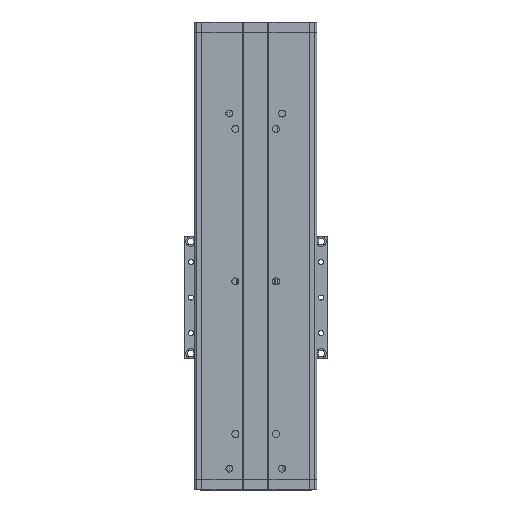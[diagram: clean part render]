
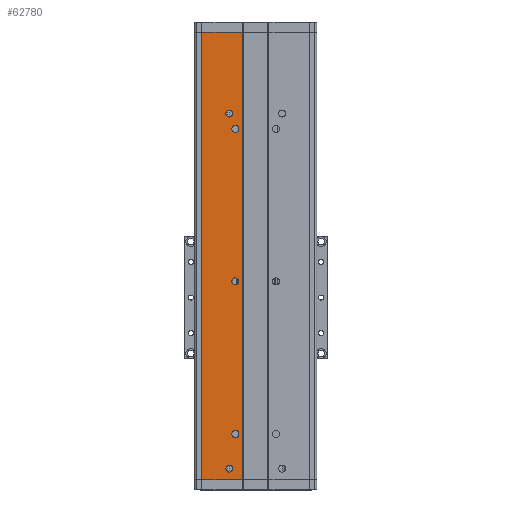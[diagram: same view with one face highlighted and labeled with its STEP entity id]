
A CAD part, front view. The second image highlights one B-rep face of the part: STEP entity #62780.
In plain terms, the highlighted planar face has unit normal (0, -1, 0).
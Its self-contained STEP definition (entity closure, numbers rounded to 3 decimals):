
#586 = LINE ( 'NONE', #114960, #53564 ) ;
#2194 = VERTEX_POINT ( 'NONE', #94603 ) ;
#2422 = CARTESIAN_POINT ( 'NONE',  ( -7.69, -28.09, 41.5 ) ) ;
#2579 = CARTESIAN_POINT ( 'NONE',  ( -13.69, -28.09, 7.6 ) ) ;
#2990 = DIRECTION ( 'NONE',  ( 0., -1., 0. ) ) ;
#4517 = FACE_BOUND ( 'NONE', #91192, .T. ) ;
#4827 = EDGE_CURVE ( 'NONE', #81502, #5033, #51527, .T. ) ;
#5033 = VERTEX_POINT ( 'NONE', #2579 ) ;
#5763 = EDGE_CURVE ( 'NONE', #108487, #126598, #79387, .T. ) ;
#5899 = CARTESIAN_POINT ( 'NONE',  ( -13.69, -28.09, 360. ) ) ;
#5983 = EDGE_CURVE ( 'NONE', #123065, #109229, #10793, .T. ) ;
#6217 = CARTESIAN_POINT ( 'NONE',  ( -7.69, -28.09, 345. ) ) ;
#6639 = EDGE_CURVE ( 'NONE', #2194, #117827, #40280, .T. ) ;
#9002 = ORIENTED_EDGE ( 'NONE', *, *, #5763, .F. ) ;
#9093 = ORIENTED_EDGE ( 'NONE', *, *, #44236, .T. ) ;
#9128 = DIRECTION ( 'NONE',  ( 0., -1., 0. ) ) ;
#9725 = ORIENTED_EDGE ( 'NONE', *, *, #5983, .T. ) ;
#10226 = CARTESIAN_POINT ( 'NONE',  ( -7.69, -28.09, 45. ) ) ;
#10750 = FACE_BOUND ( 'NONE', #50779, .T. ) ;
#10793 = CIRCLE ( 'NONE', #37494, 3.5 ) ;
#11366 = CIRCLE ( 'NONE', #45478, 3.5 ) ;
#15848 = CIRCLE ( 'NONE', #83553, 3.5 ) ;
#15907 = DIRECTION ( 'NONE',  ( 0., 0., 1. ) ) ;
#16208 = DIRECTION ( 'NONE',  ( 0., 0., 1. ) ) ;
#17173 = CARTESIAN_POINT ( 'NONE',  ( -13.69, -28.09, 11. ) ) ;
#18568 = EDGE_CURVE ( 'NONE', #5033, #81502, #105408, .T. ) ;
#18867 = CARTESIAN_POINT ( 'NONE',  ( -7.69, -28.09, 48.5 ) ) ;
#19024 = CIRCLE ( 'NONE', #62303, 3.5 ) ;
#19835 = CARTESIAN_POINT ( 'NONE',  ( -40.69, -28.09, 440. ) ) ;
#20261 = DIRECTION ( 'NONE',  ( 0., 0., 1. ) ) ;
#22892 = EDGE_CURVE ( 'NONE', #116927, #93611, #15848, .T. ) ;
#23869 = PLANE ( 'NONE',  #121432 ) ;
#24732 = CARTESIAN_POINT ( 'NONE',  ( -40.69, -28.09, 440. ) ) ;
#25594 = ORIENTED_EDGE ( 'NONE', *, *, #27612, .F. ) ;
#26399 = VECTOR ( 'NONE', #124654, 1000. ) ;
#27149 = DIRECTION ( 'NONE',  ( 0., 0., 1. ) ) ;
#27511 = CARTESIAN_POINT ( 'NONE',  ( -40.69, -28.09, 0. ) ) ;
#27612 = EDGE_CURVE ( 'NONE', #34065, #122033, #111792, .T. ) ;
#29838 = DIRECTION ( 'NONE',  ( 1., 0., 0. ) ) ;
#30631 = ORIENTED_EDGE ( 'NONE', *, *, #22892, .T. ) ;
#30979 = FACE_BOUND ( 'NONE', #44787, .T. ) ;
#33860 = DIRECTION ( 'NONE',  ( 0., 0., 1. ) ) ;
#34065 = VERTEX_POINT ( 'NONE', #36686 ) ;
#36686 = CARTESIAN_POINT ( 'NONE',  ( -13.69, -28.09, 356.6 ) ) ;
#37494 = AXIS2_PLACEMENT_3D ( 'NONE', #6217, #75882, #16208 ) ;
#37608 = CARTESIAN_POINT ( 'NONE',  ( -0.69, -28.09, 0. ) ) ;
#40280 = CIRCLE ( 'NONE', #108413, 3.5 ) ;
#40488 = ORIENTED_EDGE ( 'NONE', *, *, #89598, .T. ) ;
#41228 = DIRECTION ( 'NONE',  ( 0., 1., 0. ) ) ;
#42359 = VERTEX_POINT ( 'NONE', #24732 ) ;
#44236 = EDGE_CURVE ( 'NONE', #51142, #126598, #586, .T. ) ;
#44787 = EDGE_LOOP ( 'NONE', ( #87153, #49513 ) ) ;
#45478 = AXIS2_PLACEMENT_3D ( 'NONE', #113653, #54026, #123595 ) ;
#49472 = AXIS2_PLACEMENT_3D ( 'NONE', #10226, #79907, #20261 ) ;
#49513 = ORIENTED_EDGE ( 'NONE', *, *, #4827, .F. ) ;
#50779 = EDGE_LOOP ( 'NONE', ( #9725, #40488 ) ) ;
#51142 = VERTEX_POINT ( 'NONE', #27511 ) ;
#51527 = CIRCLE ( 'NONE', #58329, 3.4 ) ;
#52890 = LINE ( 'NONE', #78479, #76256 ) ;
#52955 = DIRECTION ( 'NONE',  ( 0., 1., 0. ) ) ;
#53136 = DIRECTION ( 'NONE',  ( 0., 1., 0. ) ) ;
#53506 = CARTESIAN_POINT ( 'NONE',  ( -40.69, -28.09, 440. ) ) ;
#53564 = VECTOR ( 'NONE', #55361, 1000. ) ;
#54026 = DIRECTION ( 'NONE',  ( 0., 1., 0. ) ) ;
#54345 = EDGE_CURVE ( 'NONE', #122033, #34065, #111786, .T. ) ;
#55361 = DIRECTION ( 'NONE',  ( 1., 0., 0. ) ) ;
#57550 = FACE_BOUND ( 'NONE', #97601, .T. ) ;
#58329 = AXIS2_PLACEMENT_3D ( 'NONE', #68814, #9128, #78793 ) ;
#61825 = ORIENTED_EDGE ( 'NONE', *, *, #91594, .T. ) ;
#62303 = AXIS2_PLACEMENT_3D ( 'NONE', #112588, #52955, #122539 ) ;
#62654 = CARTESIAN_POINT ( 'NONE',  ( -13.69, -28.09, 360. ) ) ;
#62780 = ADVANCED_FACE ( 'NONE', ( #10750, #110451, #57550, #30979, #4517, #83973 ), #23869, .F. ) ;
#65088 = CARTESIAN_POINT ( 'NONE',  ( -0.69, -28.09, 440. ) ) ;
#65367 = LINE ( 'NONE', #19835, #82435 ) ;
#68814 = CARTESIAN_POINT ( 'NONE',  ( -13.69, -28.09, 11. ) ) ;
#70128 = EDGE_CURVE ( 'NONE', #42359, #51142, #52890, .T. ) ;
#72658 = DIRECTION ( 'NONE',  ( 0., 0., 1. ) ) ;
#73493 = ORIENTED_EDGE ( 'NONE', *, *, #103021, .T. ) ;
#75573 = DIRECTION ( 'NONE',  ( 0., -1., 0. ) ) ;
#75882 = DIRECTION ( 'NONE',  ( 0., 1., 0. ) ) ;
#76256 = VECTOR ( 'NONE', #98496, 1000. ) ;
#78479 = CARTESIAN_POINT ( 'NONE',  ( -40.69, -28.09, 440. ) ) ;
#78793 = DIRECTION ( 'NONE',  ( 0., 0., 1. ) ) ;
#79387 = LINE ( 'NONE', #65088, #26399 ) ;
#79907 = DIRECTION ( 'NONE',  ( 0., 1., 0. ) ) ;
#81502 = VERTEX_POINT ( 'NONE', #127428 ) ;
#82435 = VECTOR ( 'NONE', #29838, 1000. ) ;
#83553 = AXIS2_PLACEMENT_3D ( 'NONE', #112764, #53136, #122719 ) ;
#83973 = FACE_OUTER_BOUND ( 'NONE', #97843, .T. ) ;
#86798 = DIRECTION ( 'NONE',  ( 0., -1., 0. ) ) ;
#87153 = ORIENTED_EDGE ( 'NONE', *, *, #18568, .F. ) ;
#89598 = EDGE_CURVE ( 'NONE', #109229, #123065, #11366, .T. ) ;
#91192 = EDGE_LOOP ( 'NONE', ( #25594, #99303 ) ) ;
#91594 = EDGE_CURVE ( 'NONE', #117827, #2194, #19024, .T. ) ;
#93503 = DIRECTION ( 'NONE',  ( 0., 1., 0. ) ) ;
#93611 = VERTEX_POINT ( 'NONE', #18867 ) ;
#94603 = CARTESIAN_POINT ( 'NONE',  ( -7.69, -28.09, 198.5 ) ) ;
#96873 = AXIS2_PLACEMENT_3D ( 'NONE', #5899, #75573, #15907 ) ;
#97119 = CARTESIAN_POINT ( 'NONE',  ( -0.69, -28.09, 440. ) ) ;
#97601 = EDGE_LOOP ( 'NONE', ( #73493, #30631 ) ) ;
#97843 = EDGE_LOOP ( 'NONE', ( #9093, #9002, #111139, #120154 ) ) ;
#98496 = DIRECTION ( 'NONE',  ( 0., 0., -1. ) ) ;
#99268 = CARTESIAN_POINT ( 'NONE',  ( -7.69, -28.09, 348.5 ) ) ;
#99303 = ORIENTED_EDGE ( 'NONE', *, *, #54345, .F. ) ;
#100839 = CARTESIAN_POINT ( 'NONE',  ( -7.69, -28.09, 195. ) ) ;
#101774 = CARTESIAN_POINT ( 'NONE',  ( -7.69, -28.09, 191.5 ) ) ;
#102925 = AXIS2_PLACEMENT_3D ( 'NONE', #62654, #2990, #72658 ) ;
#103008 = EDGE_CURVE ( 'NONE', #42359, #108487, #65367, .T. ) ;
#103021 = EDGE_CURVE ( 'NONE', #93611, #116927, #108909, .T. ) ;
#105408 = CIRCLE ( 'NONE', #124069, 3.4 ) ;
#108237 = CARTESIAN_POINT ( 'NONE',  ( -7.69, -28.09, 341.5 ) ) ;
#108413 = AXIS2_PLACEMENT_3D ( 'NONE', #100839, #41228, #110900 ) ;
#108487 = VERTEX_POINT ( 'NONE', #97119 ) ;
#108909 = CIRCLE ( 'NONE', #49472, 3.5 ) ;
#109229 = VERTEX_POINT ( 'NONE', #108237 ) ;
#110451 = FACE_BOUND ( 'NONE', #122312, .T. ) ;
#110900 = DIRECTION ( 'NONE',  ( 0., 0., 1. ) ) ;
#111139 = ORIENTED_EDGE ( 'NONE', *, *, #103008, .F. ) ;
#111786 = CIRCLE ( 'NONE', #96873, 3.4 ) ;
#111792 = CIRCLE ( 'NONE', #102925, 3.4 ) ;
#112588 = CARTESIAN_POINT ( 'NONE',  ( -7.69, -28.09, 195. ) ) ;
#112764 = CARTESIAN_POINT ( 'NONE',  ( -7.69, -28.09, 45. ) ) ;
#113653 = CARTESIAN_POINT ( 'NONE',  ( -7.69, -28.09, 345. ) ) ;
#114960 = CARTESIAN_POINT ( 'NONE',  ( -40.69, -28.09, 0. ) ) ;
#116927 = VERTEX_POINT ( 'NONE', #2422 ) ;
#117827 = VERTEX_POINT ( 'NONE', #101774 ) ;
#118714 = CARTESIAN_POINT ( 'NONE',  ( -13.69, -28.09, 363.4 ) ) ;
#120154 = ORIENTED_EDGE ( 'NONE', *, *, #70128, .T. ) ;
#121432 = AXIS2_PLACEMENT_3D ( 'NONE', #53506, #93503, #33860 ) ;
#121854 = ORIENTED_EDGE ( 'NONE', *, *, #6639, .T. ) ;
#122033 = VERTEX_POINT ( 'NONE', #118714 ) ;
#122312 = EDGE_LOOP ( 'NONE', ( #121854, #61825 ) ) ;
#122539 = DIRECTION ( 'NONE',  ( 0., 0., 1. ) ) ;
#122719 = DIRECTION ( 'NONE',  ( 0., 0., 1. ) ) ;
#123065 = VERTEX_POINT ( 'NONE', #99268 ) ;
#123595 = DIRECTION ( 'NONE',  ( 0., 0., 1. ) ) ;
#124069 = AXIS2_PLACEMENT_3D ( 'NONE', #17173, #86798, #27149 ) ;
#124654 = DIRECTION ( 'NONE',  ( 0., 0., -1. ) ) ;
#126598 = VERTEX_POINT ( 'NONE', #37608 ) ;
#127428 = CARTESIAN_POINT ( 'NONE',  ( -13.69, -28.09, 14.4 ) ) ;
